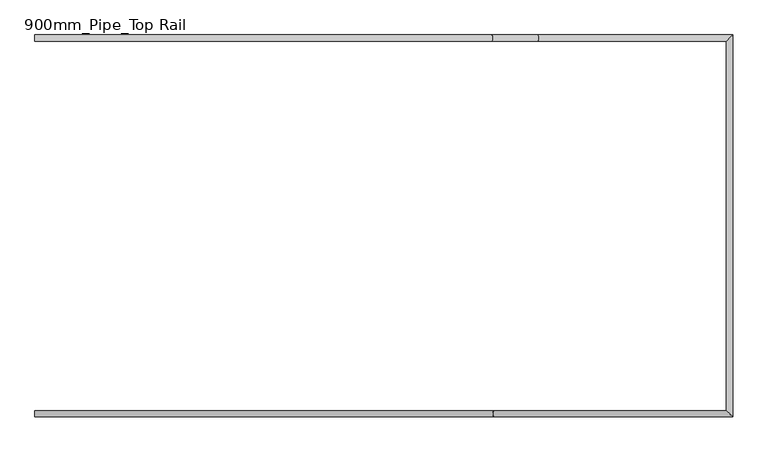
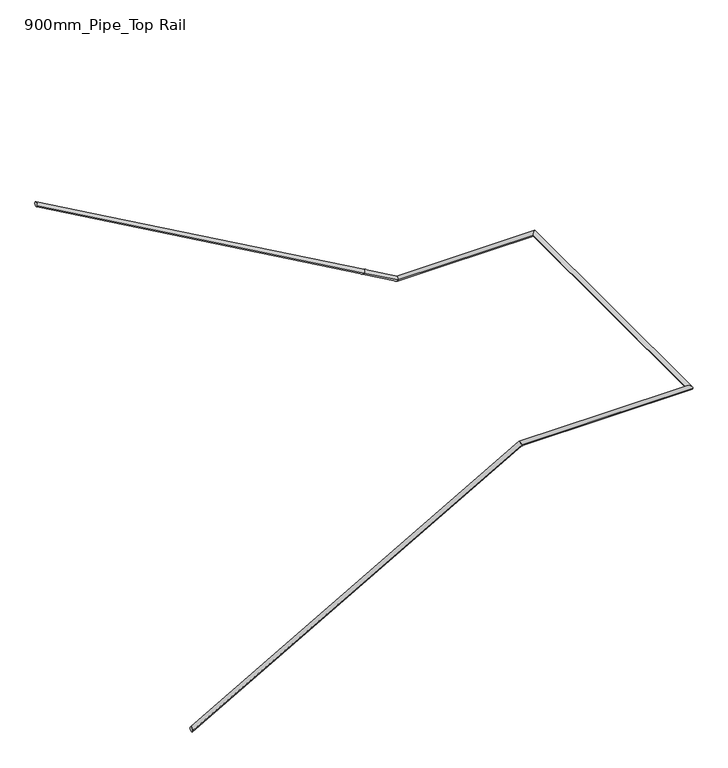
"""IFC4 building model written with IfcOpenShell, lengths in millimetres: railing geometry, 900mm_Pipe_Top Rail."""

from ifc_helpers import new_model, si_unit, frame, origin, place, context, project, spatial, circle_curve, ellipse_curve, source, transform, mapped, element, save
from ifc_brep_helpers import plane_surface, cylinder_surface, advanced_brep


def railing_900mm_pipe_top_rail_3393101f(model_context):
    return source(origin(), model_context, "Body", "AdvancedBrep", [
        advanced_brep(
        [(-801.4958562, -4563.9473686, 16057.451671), (-801.4958562, -4523.9473686, 16057.451671), (2203.7892028, -4563.9473686, 17765.0), (2203.7892028, -4523.9473686, 17765.0), (3768.1041438, -4563.9473686, 17765.0), (3728.1041438, -4523.9473686, 17765.0), (3768.1041438, -2065.2316761, 17765.0), (3728.1041438, -2105.2316761, 17765.0), (2493.2190848, -2065.2316761, 17765.0), (2493.2190848, -2105.2316761, 17765.0), (2188.6239556, -2065.2316761, 17938.0654143), (2188.6239556, -2105.2316761, 17938.0654143), (-801.4958562, -2065.2316761, 19636.9971256), (-801.4958562, -2105.2316761, 19636.9971256)],
        [
            (0, 1, ellipse_curve(frame((-801.4958562, -4543.9473686, 16057.451671), z_axis=(-1.0, 0.0, 0.0), x_axis=(0.0, 0.0, -1.0)), 23.0028744, 20.0)),
            (1, 0, ellipse_curve(frame((-801.4958562, -4543.9473686, 16057.451671), z_axis=(-1.0, 0.0, 0.0), x_axis=(0.0, 0.0, -1.0)), 23.0028744, 20.0)),
            (0, 2),
            (2, 3, ellipse_curve(frame((2203.7892028, -4543.9473686, 17765.0), z_axis=(-0.9668134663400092, 0.0, -0.25548330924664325), x_axis=(0.2554833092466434, 0.0, -0.9668134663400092)), 20.6865137, 20.0)),
            (3, 1),
            (3, 2, ellipse_curve(frame((2203.7892028, -4543.9473686, 17765.0), z_axis=(-0.9668134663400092, 0.0, -0.25548330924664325), x_axis=(0.2554833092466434, 0.0, -0.9668134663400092)), 20.6865137, 20.0)),
            (2, 4),
            (4, 5, ellipse_curve(frame((3748.1041438, -4543.9473686, 17765.0), z_axis=(-0.7071067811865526, -0.7071067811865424, 0.0), x_axis=(-0.7071067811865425, 0.7071067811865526, 0.0)), 28.2842712, 20.0)),
            (5, 3),
            (5, 4, ellipse_curve(frame((3748.1041438, -4543.9473686, 17765.0), z_axis=(-0.7071067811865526, -0.7071067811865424, 0.0), x_axis=(-0.7071067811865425, 0.7071067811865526, 0.0)), 28.2842712, 20.0)),
            (4, 6),
            (6, 7, ellipse_curve(frame((3748.1041438, -2085.2316761, 17765.0), z_axis=(0.7071067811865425, -0.7071067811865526, 0.0), x_axis=(-0.7071067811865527, -0.7071067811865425, 0.0)), 28.2842712, 20.0)),
            (7, 5),
            (7, 6, ellipse_curve(frame((3748.1041438, -2085.2316761, 17765.0), z_axis=(0.7071067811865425, -0.7071067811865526, 0.0), x_axis=(-0.7071067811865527, -0.7071067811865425, 0.0)), 28.2842712, 20.0)),
            (6, 8),
            (8, 9, ellipse_curve(frame((2493.2190848, -2085.2316761, 17765.0), z_axis=(0.9668134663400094, 0.0, -0.25548330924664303), x_axis=(0.2554833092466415, 0.0, 0.9668134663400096)), 20.6865137, 20.0)),
            (9, 7),
            (9, 8, ellipse_curve(frame((2493.2190848, -2085.2316761, 17765.0), z_axis=(0.9668134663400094, 0.0, -0.25548330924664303), x_axis=(0.2554833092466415, 0.0, 0.9668134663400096)), 20.6865137, 20.0)),
            (8, 10),
            (10, 11, circle_curve(frame((2188.6239556, -2085.2316761, 17938.0654143), z_axis=(0.8694565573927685, 0.0, -0.4940094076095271), x_axis=(0.0, -1.0, 0.0)), 20.0)),
            (11, 9),
            (11, 10, circle_curve(frame((2188.6239556, -2085.2316761, 17938.0654143), z_axis=(0.8694565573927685, 0.0, -0.4940094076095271), x_axis=(0.0, -1.0, 0.0)), 20.0)),
            (12, 13, ellipse_curve(frame((-801.4958562, -2085.2316761, 19636.9971256), z_axis=(-1.0, 0.0, 0.0), x_axis=(0.0, 0.0, -1.0)), 23.0028744, 20.0)),
            (13, 12, ellipse_curve(frame((-801.4958562, -2085.2316761, 19636.9971256), z_axis=(-1.0, 0.0, 0.0), x_axis=(0.0, 0.0, -1.0)), 23.0028744, 20.0)),
            (10, 12),
            (13, 11),
        ],
        [
            plane_surface(frame((-801.4958562, -4543.9473686, 16080.4545455), z_axis=(-1.0, 0.0, 0.0), x_axis=(0.0, 1.0, 0.0))),
            cylinder_surface(frame((-791.6156681, -4543.9473686, 16063.0654143), z_axis=(-0.8694565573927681, 0.0, -0.4940094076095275), x_axis=(0.0, 1.0, 0.0)), 20.0),
            cylinder_surface(frame((2198.5041438, -4543.9473686, 17765.0), z_axis=(-1.0, 0.0, 0.0), x_axis=(0.0, 1.0, 0.0)), 20.0),
            cylinder_surface(frame((3748.1041438, -4543.9473686, 17765.0), z_axis=(0.0, -1.0, 0.0), x_axis=(-1.0, 0.0, 0.0)), 20.0),
            cylinder_surface(frame((3748.1041438, -2085.2316761, 17765.0), z_axis=(1.0, 0.0, 0.0), x_axis=(0.0, -1.0, 0.0)), 20.0),
            cylinder_surface(frame((2488.6239556, -2085.2316761, 17767.6108689), z_axis=(0.8694565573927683, 0.0, -0.494009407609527), x_axis=(0.0, -1.0, 0.0)), 20.0),
            plane_surface(frame((-801.4958562, -2085.2316761, 19660.0), z_axis=(-1.0, 0.0, 0.0), x_axis=(0.0, -1.0, 0.0))),
            cylinder_surface(frame((2188.6239556, -2085.2316761, 17938.0654143), z_axis=(0.8694565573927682, 0.0, -0.4940094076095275), x_axis=(0.0, -1.0, 0.0)), 20.0),
        ],
        [
            (0, [[1, 2]]),
            (1, [[-1, 3, 4, 5]]),
            (1, [[-2, -5, 6, -3]]),
            (2, [[-4, 7, 8, 9]]),
            (2, [[-6, -9, 10, -7]]),
            (3, [[-8, 11, 12, 13]]),
            (3, [[-10, -13, 14, -11]]),
            (4, [[-12, 15, 16, 17]]),
            (4, [[-14, -17, 18, -15]]),
            (5, [[-16, 19, 20, 21]]),
            (5, [[-18, -21, 22, -19]]),
            (6, [[23, 24]]),
            (7, [[-20, 25, -24, 26]]),
            (7, [[-22, -26, -23, -25]]),
        ],
    ),
    ])


if __name__ == "__main__":
    model = new_model("IFC4")
    model_context = context("Model", 3, world=origin())
    ifc_project = project(units=[si_unit("LENGTHUNIT", "METRE", prefix="MILLI")], contexts=[model_context])
    site = spatial("IfcSite", under=ifc_project)
    building = spatial("IfcBuilding", under=site)
    placement = place(None, origin())
    railing_900mm_pipe_top_rail_shape = railing_900mm_pipe_top_rail_3393101f(model_context)
    element("IfcRailing", 1, ObjectType="900mm_Pipe_Top Rail", at=placement, inside=building, context=model_context, shape_type="MappedRepresentation", body=[
        mapped(railing_900mm_pipe_top_rail_shape, transform((0.0, 0.0, 0.0), x_axis=(1.0, 0.0, 0.0), y_axis=(0.0, 1.0, 0.0), z_axis=(0.0, 0.0, 1.0))),
    ])
    save(model, "model.ifc")
